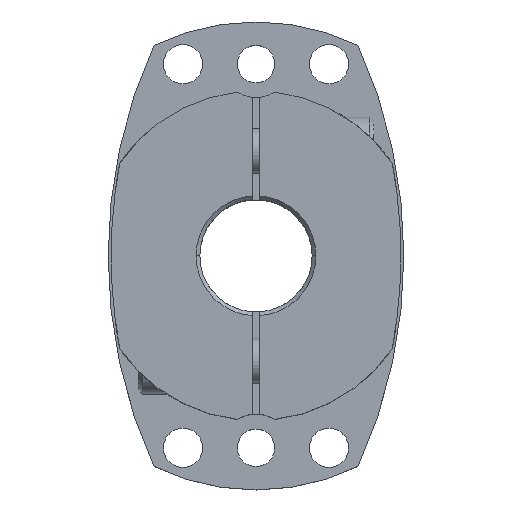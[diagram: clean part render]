
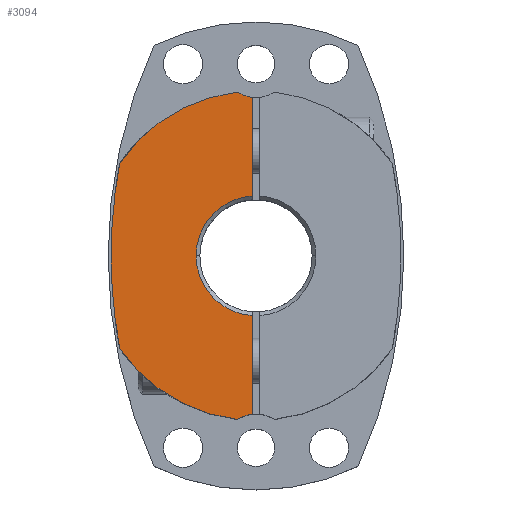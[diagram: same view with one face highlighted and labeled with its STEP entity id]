
A CAD part, top view. The second image highlights one B-rep face of the part: STEP entity #3094.
In plain terms, the highlighted planar face has unit normal (0, 0, 1).
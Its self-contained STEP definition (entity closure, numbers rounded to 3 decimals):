
#412=CARTESIAN_POINT('',(-16.,0.,36.0));
#413=VERTEX_POINT('',#412);
#421=CARTESIAN_POINT('',(-1.,15.969,36.0));
#422=VERTEX_POINT('',#421);
#436=CARTESIAN_POINT('',(0.,0.,36.0));
#437=DIRECTION('',(0.0,0.0,1.0));
#438=DIRECTION('',(-1.0,0.0,0.0));
#439=AXIS2_PLACEMENT_3D('',#436,#437,#438);
#440=CIRCLE('',#439,16.0);
#441=EDGE_CURVE('',#422,#413,#440,.T.);
#451=CARTESIAN_POINT('',(-38.7,0.,36.0));
#452=VERTEX_POINT('',#451);
#461=CARTESIAN_POINT('',(-36.405,24.712,36.0));
#462=VERTEX_POINT('',#461);
#463=CARTESIAN_POINT('',(95.5,0.,36.0));
#464=DIRECTION('',(0.0,0.0,-1.0));
#465=DIRECTION('',(1.0,0.0,0.0));
#466=AXIS2_PLACEMENT_3D('',#463,#464,#465);
#467=CIRCLE('',#466,134.2);
#468=EDGE_CURVE('',#452,#462,#467,.T.);
#2005=CARTESIAN_POINT('',(-4.933,-43.723,36.0));
#2006=VERTEX_POINT('',#2005);
#2013=CARTESIAN_POINT('',(-36.405,-24.712,36.0));
#2014=VERTEX_POINT('',#2013);
#2015=CARTESIAN_POINT('',(0.,0.,36.0));
#2016=DIRECTION('',(0.0,0.0,-1.0));
#2017=DIRECTION('',(1.0,0.0,0.0));
#2018=AXIS2_PLACEMENT_3D('',#2015,#2016,#2017);
#2019=CIRCLE('',#2018,44.);
#2020=EDGE_CURVE('',#2006,#2014,#2019,.T.);
#2654=CARTESIAN_POINT('',(95.5,0.,36.0));
#2655=DIRECTION('',(0.0,0.0,-1.0));
#2656=DIRECTION('',(1.0,0.0,0.0));
#2657=AXIS2_PLACEMENT_3D('',#2654,#2655,#2656);
#2658=CIRCLE('',#2657,134.2);
#2659=EDGE_CURVE('',#2014,#452,#2658,.T.);
#2704=CARTESIAN_POINT('',(-1.,42.306,36.0));
#2705=VERTEX_POINT('',#2704);
#2721=CARTESIAN_POINT('',(-4.933,43.723,36.0));
#2722=VERTEX_POINT('',#2721);
#2729=CARTESIAN_POINT('',(0.,51.25,36.0));
#2730=DIRECTION('',(0.0,0.0,-1.0));
#2731=DIRECTION('',(1.0,0.0,0.0));
#2732=AXIS2_PLACEMENT_3D('',#2729,#2730,#2731);
#2733=CIRCLE('',#2732,9.0);
#2734=EDGE_CURVE('',#2705,#2722,#2733,.T.);
#2796=CARTESIAN_POINT('',(-1.,-42.306,36.0));
#2797=VERTEX_POINT('',#2796);
#2804=CARTESIAN_POINT('',(0.,-51.25,36.0));
#2805=DIRECTION('',(0.0,0.0,-1.0));
#2806=DIRECTION('',(1.0,0.0,0.0));
#2807=AXIS2_PLACEMENT_3D('',#2804,#2805,#2806);
#2808=CIRCLE('',#2807,9.0);
#2809=EDGE_CURVE('',#2006,#2797,#2808,.T.);
#2928=CARTESIAN_POINT('',(-1.,15.969,36.0));
#2929=DIRECTION('',(0.0,1.0,0.0));
#2930=VECTOR('',#2929,26.337);
#2931=LINE('',#2928,#2930);
#2932=EDGE_CURVE('',#422,#2705,#2931,.T.);
#3058=CARTESIAN_POINT('',(0.,0.,36.0));
#3059=DIRECTION('',(0.0,0.0,1.0));
#3060=DIRECTION('',(1.0,0.0,0.0));
#3061=AXIS2_PLACEMENT_3D('',#3058,#3059,#3060);
#3062=PLANE('',#3061);
#3063=ORIENTED_EDGE('',*,*,#2734,.T.);
#3064=CARTESIAN_POINT('',(0.,0.,36.0));
#3065=DIRECTION('',(0.0,0.0,-1.0));
#3066=DIRECTION('',(1.0,0.0,0.0));
#3067=AXIS2_PLACEMENT_3D('',#3064,#3065,#3066);
#3068=CIRCLE('',#3067,44.);
#3069=EDGE_CURVE('',#462,#2722,#3068,.T.);
#3070=ORIENTED_EDGE('',*,*,#3069,.F.);
#3071=ORIENTED_EDGE('',*,*,#468,.F.);
#3072=ORIENTED_EDGE('',*,*,#2659,.F.);
#3073=ORIENTED_EDGE('',*,*,#2020,.F.);
#3074=ORIENTED_EDGE('',*,*,#2809,.T.);
#3075=CARTESIAN_POINT('',(-1.,-15.969,36.0));
#3076=VERTEX_POINT('',#3075);
#3077=CARTESIAN_POINT('',(-1.,-42.306,36.0));
#3078=DIRECTION('',(0.0,1.0,0.0));
#3079=VECTOR('',#3078,26.337);
#3080=LINE('',#3077,#3079);
#3081=EDGE_CURVE('',#2797,#3076,#3080,.T.);
#3082=ORIENTED_EDGE('',*,*,#3081,.T.);
#3083=CARTESIAN_POINT('',(0.,0.,36.0));
#3084=DIRECTION('',(0.0,0.0,1.0));
#3085=DIRECTION('',(-1.0,0.0,0.0));
#3086=AXIS2_PLACEMENT_3D('',#3083,#3084,#3085);
#3087=CIRCLE('',#3086,16.0);
#3088=EDGE_CURVE('',#413,#3076,#3087,.T.);
#3089=ORIENTED_EDGE('',*,*,#3088,.F.);
#3090=ORIENTED_EDGE('',*,*,#441,.F.);
#3091=ORIENTED_EDGE('',*,*,#2932,.T.);
#3092=EDGE_LOOP('',(#3063,#3070,#3071,#3072,#3073,#3074,#3082,#3089,#3090,#3091));
#3093=FACE_OUTER_BOUND('',#3092,.T.);
#3094=ADVANCED_FACE('',(#3093),#3062,.T.);
